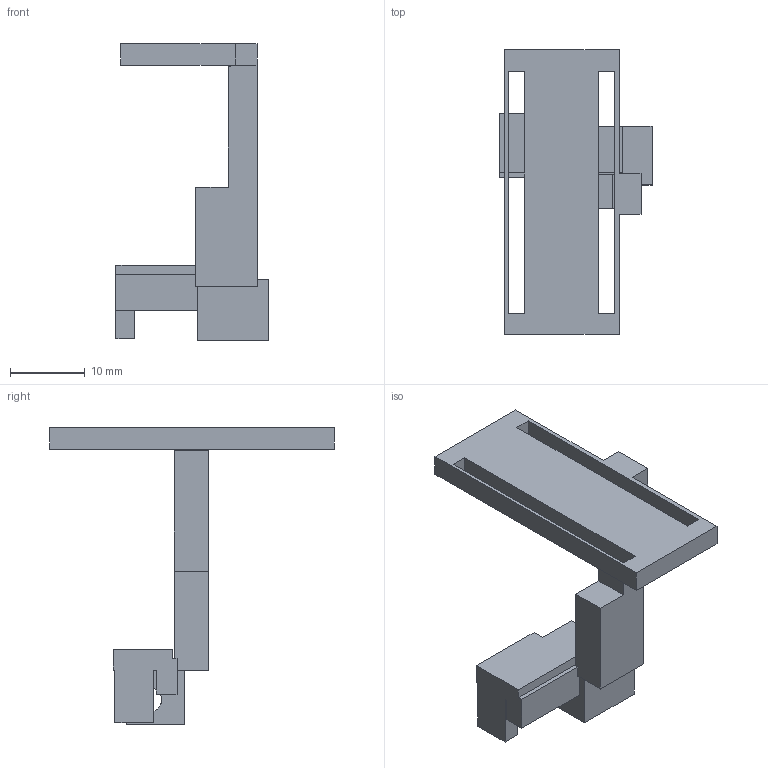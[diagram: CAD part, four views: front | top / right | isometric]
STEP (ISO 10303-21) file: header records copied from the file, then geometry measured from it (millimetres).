
FILE_DESCRIPTION(('FreeCAD Model'),'2;1');
FILE_NAME('Open CASCADE Shape Model','2026-11-20T16:32:56',('FreeCAD'),( 'FreeCAD'),'Open CASCADE STEP processor 7.8','FreeCAD','Unknown');
FILE_SCHEMA(('AUTOMOTIVE_DESIGN { 1 0 10303 214 1 1 1 1 }'));
Length unit declared in the file: millimetre
Products named in the file (1): Open CASCADE STEP translator 7.8 4
Bounding box: 20.3 x 38 x 39.65 mm (x, y, z)
Volume: 3021.8 mm3; surface area: 3272.6 mm2
Topology: 1 solids, 1 shells, 56 faces, 169 edges, 114 vertices
Faces by surface type: plane 53, cylinder 3
Full cylindrical faces by diameter (mm): 3.3 x2, 5.7 x1
Entity records: 1903 total; most frequent: CARTESIAN_POINT 340, ORIENTED_EDGE 338, DIRECTION 295, EDGE_CURVE 169, LINE 157, VECTOR 157, VERTEX_POINT 114, AXIS2_PLACEMENT_3D 69
